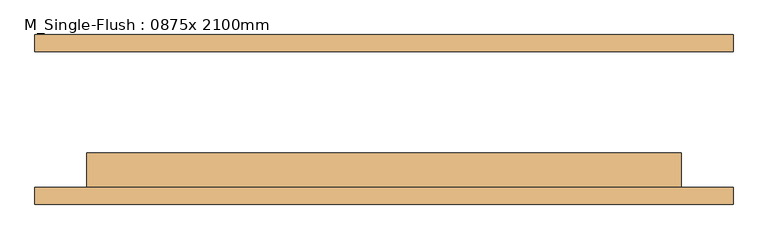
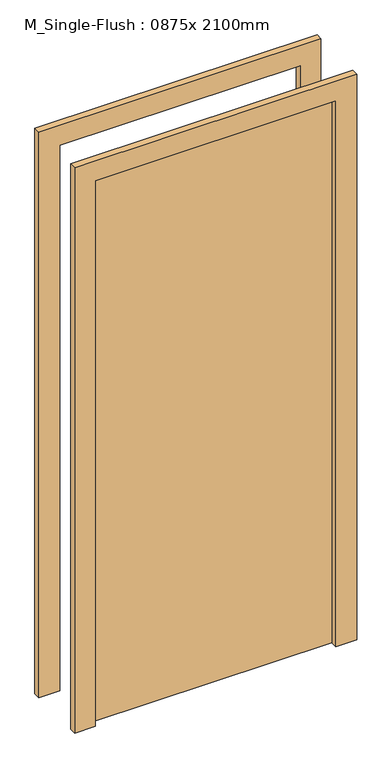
"""IFC4 building model written with IfcOpenShell, lengths in millimetres: door geometry, M_Single-Flush : 0875x 2100mm."""

from ifc_helpers import new_model, si_unit, frame, origin, origin_with_axes, place, context, project, spatial, polyline, outline, extrude, source, transform, mapped, element, save


def m_single_flush_0875x_2100mm_70c1e8a7(model_context):
    return source(origin(), model_context, "Body", "SweptSolid", [
        extrude(outline(polyline([(2176.0, -513.5), (0.0, -513.5), (0.0, -437.5), (2100.0, -437.5), (2100.0, 437.5), (0.0, 437.5), (0.0, 513.5), (2176.0, 513.5), (2176.0, -513.5)])), frame((0.0, -125.0, 0.0), z_axis=(0.0, 1.0, 0.0), x_axis=(0.0, 0.0, 1.0)), (0.0, 0.0, 1.0), 25.0),
        extrude(outline(polyline([(2176.0, 513.5), (2176.0, -513.5), (0.0, -513.5), (0.0, -437.5), (2100.0, -437.5), (2100.0, 437.5), (0.0, 437.5), (0.0, 513.5), (2176.0, 513.5)])), frame((0.0, 100.0, 0.0), z_axis=(0.0, 1.0, 0.0), x_axis=(0.0, 0.0, 1.0)), (0.0, 0.0, 1.0), 25.0),
        extrude(outline(polyline([(437.5, -49.0), (437.5, -100.0), (-437.5, -100.0), (-437.5, -49.0), (437.5, -49.0)])), origin_with_axes(), (0.0, 0.0, 1.0), 2100.0),
    ])


if __name__ == "__main__":
    model = new_model("IFC4")
    model_context = context("Model", 3, world=origin())
    ifc_project = project(units=[si_unit("LENGTHUNIT", "METRE", prefix="MILLI")], contexts=[model_context])
    site = spatial("IfcSite", under=ifc_project)
    building = spatial("IfcBuilding", under=site)
    placement = place(None, origin())
    m_single_flush_0875x_2100mm_shape = m_single_flush_0875x_2100mm_70c1e8a7(model_context)
    element("IfcDoor", 1, ObjectType="M_Single-Flush : 0875x 2100mm", at=placement, inside=building, context=model_context, shape_type="MappedRepresentation", body=[
        mapped(m_single_flush_0875x_2100mm_shape, transform((0.0, 0.0, 0.0), x_axis=(1.0, 0.0, 0.0), y_axis=(0.0, 1.0, 0.0), z_axis=(0.0, 0.0, 1.0))),
    ])
    save(model, "model.ifc")
